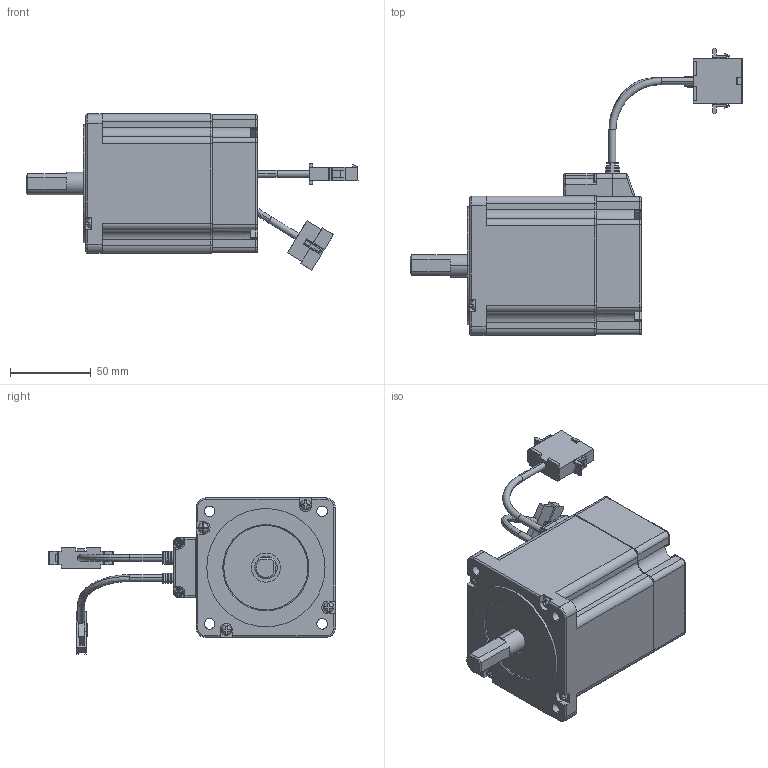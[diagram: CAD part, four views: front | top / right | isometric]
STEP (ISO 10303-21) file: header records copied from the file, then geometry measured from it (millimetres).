
FILE_DESCRIPTION (( 'STEP AP203' ), '1' );
FILE_NAME ('P11-MO-086-01-R00.STEP', '2017-03-03T03:18:50', ( '' ), ( '' ), 'SwSTEP 2.0', 'SolidWorks 2013', '' );
FILE_SCHEMA (( 'CONFIG_CONTROL_DESIGN' ));
Length unit declared in the file: millimetre
Products named in the file (8): pan cross head_ks_KS 1023 PC- M3 x 25-N; pan cross head_ks_KS 1023 PC- M3 x 16-N; P11-MO-086-01-R00; M11-MO-086-01-R00(EzM-86M-01); M11-EC-086-01-R01; M11-EC-086-02-R00; 42阿 浚内歹 纳捞喉急_钎霖; 86陝 賅攪瞪錳摹
Assembly tree (11 placements, depth 2):
  P11-MO-086-01-R00
    M11-MO-086-01-R00(EzM-86M-01)
    M11-EC-086-01-R01
    M11-EC-086-02-R00
    42阿 浚内歹 纳捞喉急_钎霖
    86陝 賅攪瞪錳摹
    pan cross head_ks_KS 1023 PC- M3 x 25-N  x4
    pan cross head_ks_KS 1023 PC- M3 x 16-N  x2
Bounding box: 205 x 177.25 x 96.34 mm (x, y, z)
Volume: 585599.9 mm3; surface area: 95468.5 mm2
Topology: 11 solids, 11 shells, 952 faces, 2473 edges, 1576 vertices
Faces by surface type: plane 526, cylinder 273, cone 57, bspline 40, torus 36, sphere 20
Entity records: 29053 total; most frequent: CARTESIAN_POINT 7887, DIRECTION 4249, ORIENTED_EDGE 4244, EDGE_CURVE 2122, AXIS2_PLACEMENT_3D 1496, VERTEX_POINT 1368, LINE 1257, VECTOR 1257
